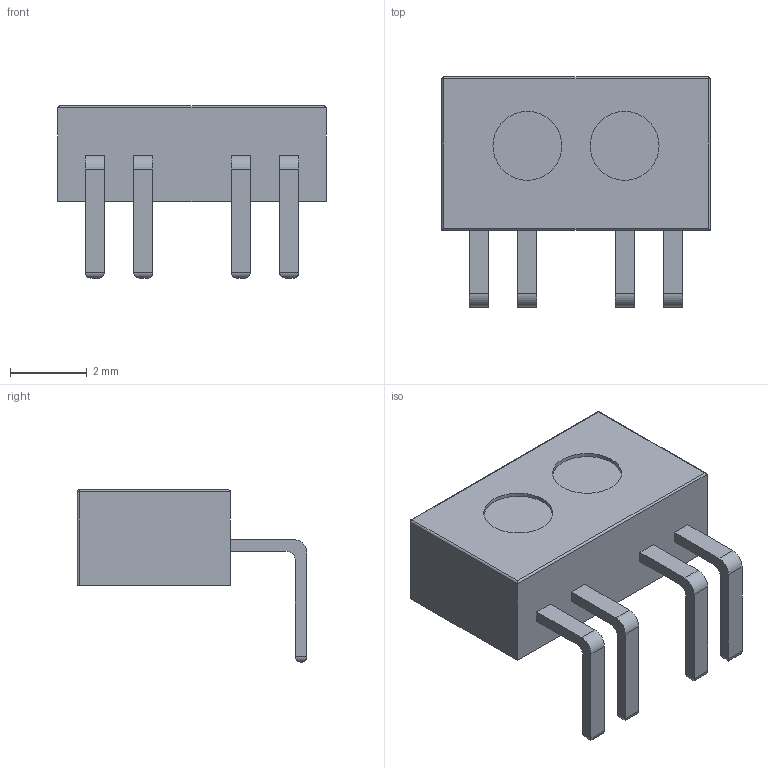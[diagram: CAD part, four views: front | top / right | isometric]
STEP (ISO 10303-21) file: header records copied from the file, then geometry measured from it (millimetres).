
FILE_DESCRIPTION(/* description */ (''),/* implementation_level */ '2;1');
FILE_NAME(/* name */ 'C:/Users/nmtel/OneDrive/Desktop/TCRT1010 (TCRT1000 Horizontal).step',/* time_stamp */ '2021-01-24T07:59:59+02:00',/* author */ (''),/* organization */ (''),/* preprocessor_version */ 'ST-DEVELOPER v18.1',/* originating_system */ 'Autodesk Translation Framework v9.7.1.1290',/* authorisation */ '');
FILE_SCHEMA (('AUTOMOTIVE_DESIGN { 1 0 10303 214 3 1 1 }'));
Length unit declared in the file: millimetre
Products named in the file (1): TCRT1010
Bounding box: 7 x 6 x 4.5 mm (x, y, z)
Volume: 72.4 mm3; surface area: 155.3 mm2
Topology: 7 solids, 7 shells, 73 faces, 153 edges, 96 vertices
Faces by surface type: plane 40, cylinder 31, sphere 2
Full cylindrical faces by diameter (mm): 1.8 x4
Entity records: 1974 total; most frequent: DIRECTION 351, CARTESIAN_POINT 323, ORIENTED_EDGE 306, EDGE_CURVE 153, AXIS2_PLACEMENT_3D 124, LINE 103, VECTOR 103, VERTEX_POINT 96
